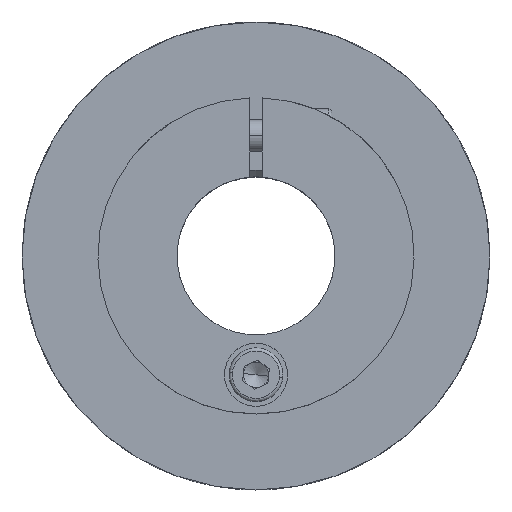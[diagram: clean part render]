
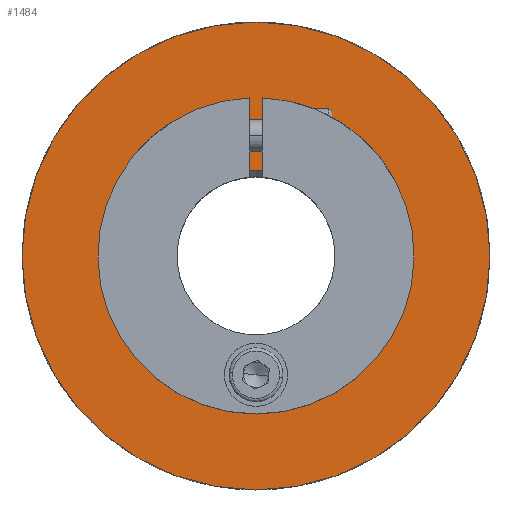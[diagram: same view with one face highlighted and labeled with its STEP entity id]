
A CAD part, top view. The second image highlights one B-rep face of the part: STEP entity #1484.
In plain terms, the highlighted planar face has unit normal (0, 0, 1).
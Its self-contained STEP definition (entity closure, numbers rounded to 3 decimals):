
#53 = AXIS2_PLACEMENT_3D ( 'NONE', #1233, #3318, #1600 ) ;
#96 = CARTESIAN_POINT ( 'NONE',  ( 0., 0., 0. ) ) ;
#123 = DIRECTION ( 'NONE',  ( 1., 0., 0. ) ) ;
#142 = EDGE_LOOP ( 'NONE', ( #4931, #2949 ) ) ;
#324 = AXIS2_PLACEMENT_3D ( 'NONE', #4538, #343, #4131 ) ;
#343 = DIRECTION ( 'NONE',  ( 0., 0., -1. ) ) ;
#473 = AXIS2_PLACEMENT_3D ( 'NONE', #96, #5109, #2583 ) ;
#650 = AXIS2_PLACEMENT_3D ( 'NONE', #1421, #3352, #4944 ) ;
#774 = CIRCLE ( 'NONE', #5367, 37. ) ;
#890 = VERTEX_POINT ( 'NONE', #4018 ) ;
#965 = ORIENTED_EDGE ( 'NONE', *, *, #3474, .F. ) ;
#1131 = CARTESIAN_POINT ( 'NONE',  ( 0., 0., 0. ) ) ;
#1185 = AXIS2_PLACEMENT_3D ( 'NONE', #1131, #3734, #2934 ) ;
#1233 = CARTESIAN_POINT ( 'NONE',  ( 0., -18.8, 0. ) ) ;
#1372 = CIRCLE ( 'NONE', #2529, 2.1 ) ;
#1421 = CARTESIAN_POINT ( 'NONE',  ( 0., 12.525, 0. ) ) ;
#1484 = ADVANCED_FACE ( 'NONE', ( #4403, #3520, #5282 ), #2258, .F. ) ;
#1528 = EDGE_CURVE ( 'NONE', #4169, #5424, #4637, .T. ) ;
#1600 = DIRECTION ( 'NONE',  ( 1., 0., 0. ) ) ;
#1659 = EDGE_CURVE ( 'NONE', #5424, #4169, #4208, .T. ) ;
#1675 = ORIENTED_EDGE ( 'NONE', *, *, #2431, .F. ) ;
#2163 = VERTEX_POINT ( 'NONE', #4193 ) ;
#2258 = PLANE ( 'NONE',  #650 ) ;
#2338 = CIRCLE ( 'NONE', #53, 2.1 ) ;
#2431 = EDGE_CURVE ( 'NONE', #2163, #5269, #774, .T. ) ;
#2529 = AXIS2_PLACEMENT_3D ( 'NONE', #3920, #2658, #123 ) ;
#2583 = DIRECTION ( 'NONE',  ( 1., 0., 0. ) ) ;
#2658 = DIRECTION ( 'NONE',  ( 0., 0., 1. ) ) ;
#2934 = DIRECTION ( 'NONE',  ( 1., 0., 0. ) ) ;
#2949 = ORIENTED_EDGE ( 'NONE', *, *, #1528, .F. ) ;
#3190 = EDGE_LOOP ( 'NONE', ( #4956, #965 ) ) ;
#3213 = EDGE_CURVE ( 'NONE', #5269, #2163, #5361, .T. ) ;
#3318 = DIRECTION ( 'NONE',  ( 0., 0., 1. ) ) ;
#3352 = DIRECTION ( 'NONE',  ( 0., 0., -1. ) ) ;
#3369 = EDGE_LOOP ( 'NONE', ( #3636, #1675 ) ) ;
#3413 = DIRECTION ( 'NONE',  ( 1., 0., 0. ) ) ;
#3474 = EDGE_CURVE ( 'NONE', #4413, #890, #1372, .T. ) ;
#3520 = FACE_BOUND ( 'NONE', #142, .T. ) ;
#3636 = ORIENTED_EDGE ( 'NONE', *, *, #3213, .F. ) ;
#3734 = DIRECTION ( 'NONE',  ( 0., 0., 1. ) ) ;
#3920 = CARTESIAN_POINT ( 'NONE',  ( 0., -18.8, 0. ) ) ;
#4018 = CARTESIAN_POINT ( 'NONE',  ( 2.1, -18.8, 0. ) ) ;
#4071 = CARTESIAN_POINT ( 'NONE',  ( -13.525, 0., 0. ) ) ;
#4131 = DIRECTION ( 'NONE',  ( 1., 0., 0. ) ) ;
#4169 = VERTEX_POINT ( 'NONE', #4071 ) ;
#4193 = CARTESIAN_POINT ( 'NONE',  ( -37., 0., 0. ) ) ;
#4208 = CIRCLE ( 'NONE', #473, 13.525 ) ;
#4263 = CARTESIAN_POINT ( 'NONE',  ( 0., 0., 0. ) ) ;
#4403 = FACE_OUTER_BOUND ( 'NONE', #3369, .T. ) ;
#4413 = VERTEX_POINT ( 'NONE', #5050 ) ;
#4435 = CARTESIAN_POINT ( 'NONE',  ( 37., 0., 0. ) ) ;
#4538 = CARTESIAN_POINT ( 'NONE',  ( 0., 0., 0. ) ) ;
#4637 = CIRCLE ( 'NONE', #1185, 13.525 ) ;
#4755 = EDGE_CURVE ( 'NONE', #890, #4413, #2338, .T. ) ;
#4780 = CARTESIAN_POINT ( 'NONE',  ( 13.525, 0., 0. ) ) ;
#4931 = ORIENTED_EDGE ( 'NONE', *, *, #1659, .F. ) ;
#4944 = DIRECTION ( 'NONE',  ( -1., 0., 0. ) ) ;
#4956 = ORIENTED_EDGE ( 'NONE', *, *, #4755, .F. ) ;
#5050 = CARTESIAN_POINT ( 'NONE',  ( -2.1, -18.8, 0. ) ) ;
#5109 = DIRECTION ( 'NONE',  ( 0., 0., 1. ) ) ;
#5269 = VERTEX_POINT ( 'NONE', #4435 ) ;
#5282 = FACE_BOUND ( 'NONE', #3190, .T. ) ;
#5361 = CIRCLE ( 'NONE', #324, 37. ) ;
#5367 = AXIS2_PLACEMENT_3D ( 'NONE', #4263, #5473, #3413 ) ;
#5424 = VERTEX_POINT ( 'NONE', #4780 ) ;
#5473 = DIRECTION ( 'NONE',  ( 0., 0., -1. ) ) ;
